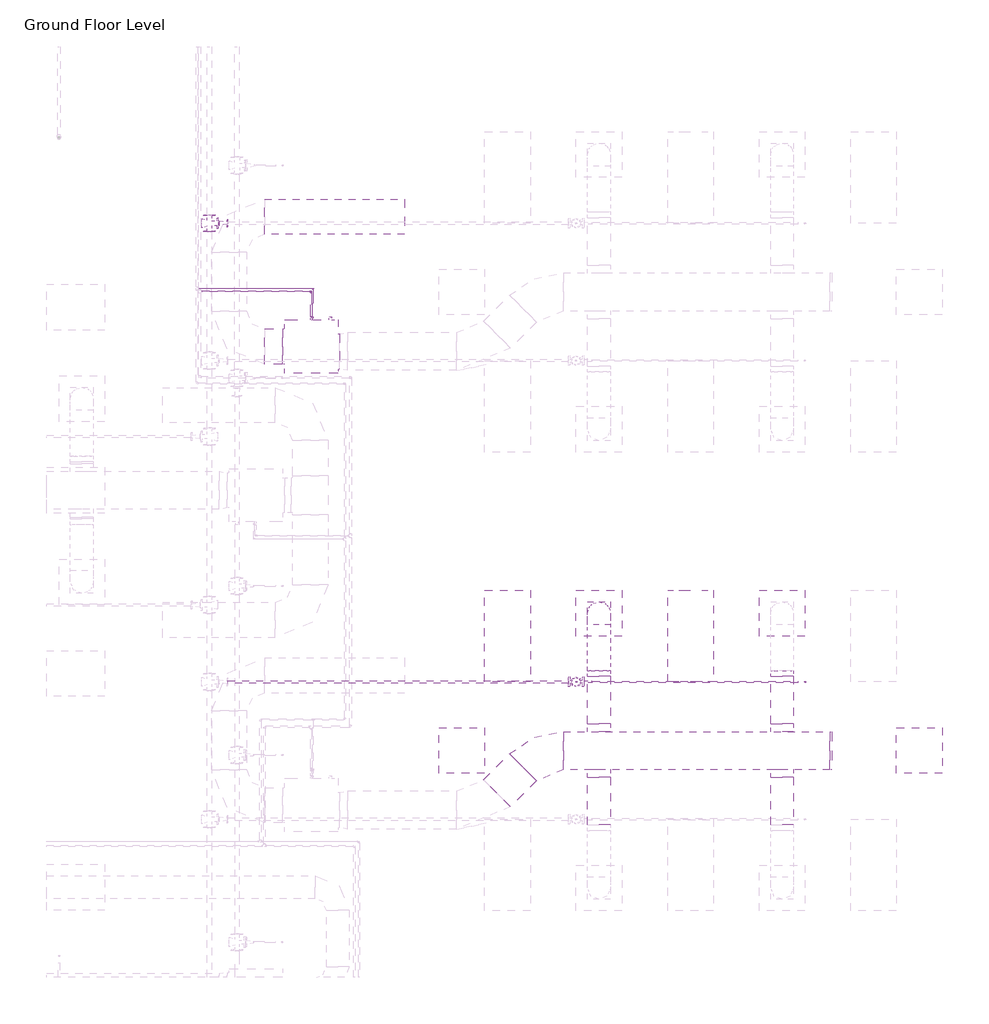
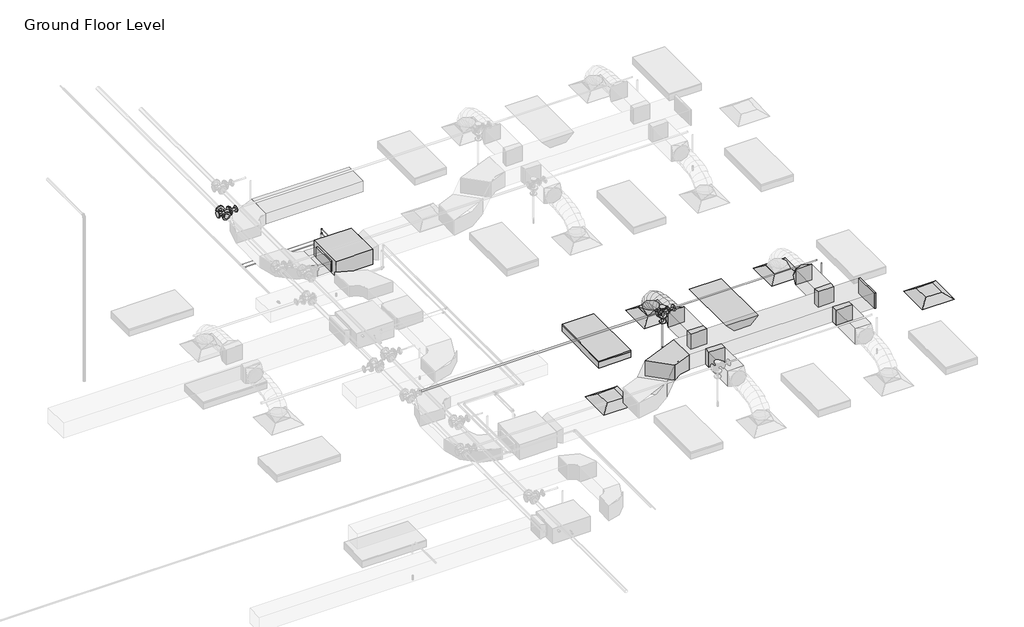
# One storey, part 63 of 74: 10 pipe segments, 9 duct fittings, 9 duct segments, 9 pipe fittings, 4 air terminals, 2 fire suppression terminals, 2 light fixtures, 1 proxy.
"""IFC4 building model written with IfcOpenShell, lengths in millimetres."""

from ifc_helpers import new_model, si_unit, point, frame, frame_2d, origin, place, context, project, spatial, polyline, circle_curve, ellipse_curve, trimmed, segment, composite_curve, outline, extrude, transform, mapped, element, save
from ifc_brep_helpers import plane_surface, cylinder_surface, advanced_brep
from components import m_return_diffuser_600_x_600_face_300_x_300_connection_ff221211, fcu_daikin_iu_bad131e0, m_rectangular_elbow_radius_1_5_w_acc56c25, m_rectangular_endcap_standard_72d4d00d, m_rectangular_takeoff_standard_cb0ccb98, m_rectangular_takeoff_standard_2be5eba1, m_rectangular_to_round_transition_angle_45_degree_641efff0, m_sprinkler_dry_pendent_hosted_15_mm_dry_pendent_9bda8e11, m_emergency_recessed_lighting_fixture_600x1200_277_5b10b25d, m_troffer_light_parabolic_rectangular1_0600x1200mm_4_lamp_86473d4a, m_elbow_generic_standard_a088f956, m_elbow_generic_standard_2a704253, m_reducer_flanged_cs_class_150_standard_ccf252ad, m_reducer_flanged_cs_class_150_standard_a7631c35, m_tee_round_base_flanged_cs_class_150_standard_dd767e04, m_tee_round_base_flanged_cs_class_150_standard_7e5987a1

model = new_model("IFC4")

# Units and contexts
model_context = context("Model", 3, world=origin())
ifc_project = project(units=[si_unit("LENGTHUNIT", "METRE", prefix="MILLI")], contexts=[model_context])

# Site, building, storey
site = spatial("IfcSite", under=ifc_project)
building = spatial("IfcBuilding", under=site)
storey = spatial("IfcBuildingStorey", under=building, Name="Ground Floor Level", Elevation=900.0)

# Air terminals
placement = place(None, origin())
m_return_diffuser_600_x_600_face_300_x_300_connection_shape = m_return_diffuser_600_x_600_face_300_x_300_connection_ff221211(model_context)
element("IfcAirTerminal", 1, ObjectType="M_Return Diffuser : 600 x 600 Face 300 x 300 Connection", at=placement, inside=storey, context=model_context, shape_type="MappedRepresentation", body=[
    mapped(m_return_diffuser_600_x_600_face_300_x_300_connection_shape, transform((8942.7672395, 725.2153534, 3650.0), x_axis=(1.0, 0.0, 0.0), y_axis=(0.0, 1.0, 0.0), z_axis=(0.0, 0.0, 1.0))),
])
element("IfcAirTerminal", 2, ObjectType="M_Return Diffuser : 600 x 600 Face 300 x 300 Connection", at=placement, inside=storey, context=model_context, shape_type="MappedRepresentation", body=[
    mapped(m_return_diffuser_600_x_600_face_300_x_300_connection_shape, transform((14942.7672395, 725.2153534, 3650.0), x_axis=(1.0, 0.0, 0.0), y_axis=(0.0, 1.0, 0.0), z_axis=(0.0, 0.0, 1.0))),
])
element("IfcAirTerminal", 3, ObjectType="M_Supply Diffuser : 600 x 600 Face 300 x 300 Connection", at=placement, inside=storey, context=model_context, shape_type="MappedRepresentation", body=[
    mapped(m_return_diffuser_600_x_600_face_300_x_300_connection_shape, transform((10742.7672395, 2525.2153534, 3650.0), x_axis=(1.0, 0.0, 0.0), y_axis=(0.0, 1.0, 0.0), z_axis=(0.0, 0.0, 1.0))),
])
element("IfcAirTerminal", 4, ObjectType="M_Supply Diffuser : 600 x 600 Face 300 x 300 Connection", at=placement, inside=storey, context=model_context, shape_type="MappedRepresentation", body=[
    mapped(m_return_diffuser_600_x_600_face_300_x_300_connection_shape, transform((13142.7672395, 2525.2153534, 3650.0), x_axis=(1.0, 0.0, 0.0), y_axis=(0.0, 1.0, 0.0), z_axis=(0.0, 0.0, 1.0))),
])

# Proxy
fcu_daikin_iu_shape = fcu_daikin_iu_bad131e0(model_context)
element("IfcBuildingElementProxy", 5, Name="FCU-DAIKIN IU : 4.5kW, 230V/50Hz/1Ph", ObjectType="FCU-DAIKIN IU : 4.5kW, 230V/50Hz/1Ph", at=placement, inside=storey, context=model_context, shape_type="MappedRepresentation", body=[
    mapped(fcu_daikin_iu_shape, transform((6968.8139492, 6019.6779527, 3934.0932729), x_axis=(0.0, 1.0, 0.0), y_axis=(-1.0, 0.0, 0.0), z_axis=(0.0, 0.0, 1.0))),
])

# Duct fittings
m_rectangular_elbow_radius_1_5_w_shape = m_rectangular_elbow_radius_1_5_w_acc56c25(model_context)
element("IfcDuctFitting", 6, ObjectType="M_Rectangular Elbow - Radius : 1.5 W", at=placement, inside=storey, context=model_context, shape_type="MappedRepresentation", body=[
    mapped(m_rectangular_elbow_radius_1_5_w_shape, transform((9966.7301365, 725.2153534, 4100.0), x_axis=(-1.0, 0.0, 0.0), y_axis=(0.0, -0.9999999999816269, 6.061864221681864e-06), z_axis=(0.0, 6.061864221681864e-06, 0.9999999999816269))),
])
m_rectangular_endcap_standard_shape = m_rectangular_endcap_standard_72d4d00d(model_context)
element("IfcDuctFitting", 7, ObjectType="M_Rectangular Endcap : Standard", at=placement, inside=storey, context=model_context, shape_type="MappedRepresentation", body=[
    mapped(m_rectangular_endcap_standard_shape, transform((13766.7301365, 725.2153534, 4100.0), x_axis=(1.0, 0.0, 0.0), y_axis=(0.0, 1.0, 0.0), z_axis=(0.0, 0.0, 1.0))),
])
m_rectangular_takeoff_standard_shape = m_rectangular_takeoff_standard_cb0ccb98(model_context)
element("IfcDuctFitting", 8, ObjectType="M_Rectangular Takeoff : Standard", at=placement, inside=storey, context=model_context, shape_type="MappedRepresentation", body=[
    mapped(m_rectangular_takeoff_standard_shape, transform((10742.7672395, 975.2153534, 4100.0), x_axis=(0.0, 1.0, 0.0), y_axis=(1.0, 0.0, 0.0), z_axis=(0.0, 0.0, -1.0))),
])
element("IfcDuctFitting", 9, ObjectType="M_Rectangular Takeoff : Standard", at=placement, inside=storey, context=model_context, shape_type="MappedRepresentation", body=[
    mapped(m_rectangular_takeoff_standard_shape, transform((13142.7672395, 975.2153534, 4100.0), x_axis=(0.0, 1.0, 0.0), y_axis=(1.0, 0.0, 0.0), z_axis=(0.0, 0.0, -1.0))),
])
m_rectangular_takeoff_standard_2_shape = m_rectangular_takeoff_standard_2be5eba1(model_context)
element("IfcDuctFitting", 10, ObjectType="M_Rectangular Takeoff : Standard", at=placement, inside=storey, context=model_context, shape_type="MappedRepresentation", body=[
    mapped(m_rectangular_takeoff_standard_2_shape, transform((10742.7672395, 475.2153534, 4100.0), x_axis=(0.0, -1.0, 0.0), y_axis=(-1.0, 0.0, 0.0), z_axis=(0.0, 0.0, -1.0))),
])
element("IfcDuctFitting", 11, ObjectType="M_Rectangular Takeoff : Standard", at=placement, inside=storey, context=model_context, shape_type="MappedRepresentation", body=[
    mapped(m_rectangular_takeoff_standard_2_shape, transform((13142.7672395, 475.2153534, 4100.0), x_axis=(0.0, -1.0, 0.0), y_axis=(-1.0, 0.0, 0.0), z_axis=(0.0, 0.0, -1.0))),
])
m_rectangular_to_round_transition_angle_45_degree_shape = m_rectangular_to_round_transition_angle_45_degree_641efff0(model_context)
element("IfcDuctFitting", 12, ObjectType="M_Rectangular to Round Transition - Angle : 45 Degree", at=placement, inside=storey, context=model_context, shape_type="MappedRepresentation", body=[
    mapped(m_rectangular_to_round_transition_angle_45_degree_shape, transform((10742.7672395, 2525.2153534, 3751.6), x_axis=(0.0, 0.0, 1.0), y_axis=(-1.0, 0.0, 0.0), z_axis=(0.0, -1.0, 0.0))),
])
element("IfcDuctFitting", 13, ObjectType="M_Rectangular to Round Transition - Angle : 45 Degree", at=placement, inside=storey, context=model_context, shape_type="MappedRepresentation", body=[
    mapped(m_rectangular_to_round_transition_angle_45_degree_shape, transform((10742.7672395, 1697.8794221, 4100.0), x_axis=(0.0, 1.0, 0.0), y_axis=(-1.0, 0.0, 0.0), z_axis=(0.0, 0.0, 1.0))),
])
element("IfcDuctFitting", 14, ObjectType="M_Rectangular to Round Transition - Angle : 45 Degree", at=placement, inside=storey, context=model_context, shape_type="MappedRepresentation", body=[
    mapped(m_rectangular_to_round_transition_angle_45_degree_shape, transform((13142.7672395, 1697.8794221, 4100.0), x_axis=(0.0, 1.0, 0.0), y_axis=(-1.0, 0.0, 0.0), z_axis=(0.0, 0.0, 1.0))),
])

# Duct segments
element("IfcDuctSegment", 15, ObjectType="Flex - Round", at=placement, inside=storey, context=model_context, shape_type="AdvancedBrep", body=[
    advanced_brep(
    [(10892.7672395, 2525.2153534, 3826.6), (10742.7672395, 2375.2153534, 3826.6), (10592.7672395, 2525.2153534, 3826.6), (10742.7672395, 2675.2153534, 3826.6), (10892.7672395, 2525.2153534, 3857.9377114), (10742.7672395, 2375.2153534, 3832.2944892), (10592.7672395, 2525.2153534, 3857.9377114), (10742.7672395, 2675.2153534, 3883.5809337), (10892.7672395, 2508.1994208, 3906.2505728), (10742.7672395, 2374.4614419, 3834.435049), (10592.7672395, 2508.1994208, 3906.2505728), (10742.7672395, 2641.9373998, 3978.0660967), (10892.7672395, 2461.0155405, 3968.7113131), (10742.7672395, 2356.8096412, 3857.8020236), (10592.7672395, 2461.0155405, 3968.7113131), (10742.7672395, 2565.2214397, 4079.6206026), (10892.7672395, 2389.4595883, 4016.0700639), (10742.7672395, 2320.5255327, 3881.8163788), (10592.7672395, 2389.4595883, 4016.0700639), (10742.7672395, 2458.3936439, 4150.3237489), (10892.7672395, 2299.3274403, 4050.4146682), (10742.7672395, 2255.7666771, 3906.4925606), (10592.7672395, 2299.3274403, 4050.4146682), (10742.7672395, 2342.8882035, 4194.3367758), (10892.7672395, 2196.4149725, 4073.8329691), (10742.7672395, 2169.8540485, 3926.0424542), (10592.7672395, 2196.4149725, 4073.8329691), (10742.7672395, 2222.9758965, 4221.6234841), (10892.7672395, 2086.5180607, 4088.4128097), (10742.7672395, 2071.3671584, 3939.1085462), (10592.7672395, 2086.5180607, 4088.4128097), (10742.7672395, 2101.6689631, 4237.7170733), (10892.7672395, 1975.4325811, 4096.242033), (10742.7672395, 1967.9272529, 3946.398915), (10592.7672395, 1975.4325811, 4096.242033), (10742.7672395, 1982.9379093, 4246.085151), (10892.7672395, 1868.9544096, 4099.4084821), (10742.7672395, 1866.2629165, 3949.4222102), (10592.7672395, 1868.9544096, 4099.4084821), (10742.7672395, 1871.6459027, 4249.394754), (10892.7672395, 1772.8794221, 4100.0), (10742.7672395, 1773.8029299, 4249.9971571), (10592.7672395, 1772.8794221, 4100.0), (10742.7672395, 1771.9559143, 3950.0028429)],
    [
        (0, 1, circle_curve(frame((10742.7672395, 2525.2153534, 3826.6), z_axis=(0.0, 0.0, -1.0), x_axis=(1.0, 0.0, 0.0)), 150.0)),
        (1, 2, circle_curve(frame((10742.7672395, 2525.2153534, 3826.6), z_axis=(0.0, 0.0, -1.0), x_axis=(1.0, 0.0, 0.0)), 150.0)),
        (2, 3, circle_curve(frame((10742.7672395, 2525.2153534, 3826.6), z_axis=(0.0, 0.0, -1.0), x_axis=(1.0, 0.0, 0.0)), 150.0)),
        (3, 0, circle_curve(frame((10742.7672395, 2525.2153534, 3826.6), z_axis=(0.0, 0.0, -1.0), x_axis=(1.0, 0.0, 0.0)), 150.0)),
        (0, 4),
        (4, 5, ellipse_curve(frame((10742.7672395, 2525.2153534, 3857.9377114), z_axis=(0.0, 0.16851014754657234, -0.9856999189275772), x_axis=(0.0, -0.9856999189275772, -0.1685101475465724)), 152.176131, 150.0)),
        (5, 1),
        (5, 6, ellipse_curve(frame((10742.7672395, 2525.2153534, 3857.9377114), z_axis=(0.0, 0.16851014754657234, -0.9856999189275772), x_axis=(0.0, -0.9856999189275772, -0.1685101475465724)), 152.176131, 150.0)),
        (6, 2),
        (6, 7, ellipse_curve(frame((10742.7672395, 2525.2153534, 3857.9377114), z_axis=(0.0, 0.16851014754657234, -0.9856999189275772), x_axis=(0.0, -0.9856999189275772, -0.1685101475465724)), 152.176131, 150.0)),
        (7, 3),
        (7, 4, ellipse_curve(frame((10742.7672395, 2525.2153534, 3857.9377114), z_axis=(0.0, 0.16851014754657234, -0.9856999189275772), x_axis=(0.0, -0.9856999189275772, -0.1685101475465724)), 152.176131, 150.0)),
        (4, 8),
        (8, 9, ellipse_curve(frame((10742.7672395, 2508.1994208, 3906.2505728), z_axis=(0.0, 0.47309225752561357, -0.8810128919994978), x_axis=(0.0, -0.8810128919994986, -0.47309225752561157)), 151.8002519, 150.0)),
        (9, 5),
        (9, 10, ellipse_curve(frame((10742.7672395, 2508.1994208, 3906.2505728), z_axis=(0.0, 0.47309225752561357, -0.8810128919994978), x_axis=(0.0, -0.8810128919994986, -0.47309225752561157)), 151.8002519, 150.0)),
        (10, 6),
        (10, 11, ellipse_curve(frame((10742.7672395, 2508.1994208, 3906.2505728), z_axis=(0.0, 0.47309225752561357, -0.8810128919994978), x_axis=(0.0, -0.8810128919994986, -0.47309225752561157)), 151.8002519, 150.0)),
        (11, 7),
        (11, 8, ellipse_curve(frame((10742.7672395, 2508.1994208, 3906.2505728), z_axis=(0.0, 0.47309225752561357, -0.8810128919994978), x_axis=(0.0, -0.8810128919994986, -0.47309225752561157)), 151.8002519, 150.0)),
        (8, 12),
        (12, 13, ellipse_curve(frame((10742.7672395, 2461.0155405, 3968.7113131), z_axis=(0.0, 0.7287877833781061, -0.6847396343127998), x_axis=(0.0, -0.6847396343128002, -0.7287877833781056)), 152.1832446, 150.0)),
        (13, 9),
        (13, 14, ellipse_curve(frame((10742.7672395, 2461.0155405, 3968.7113131), z_axis=(0.0, 0.7287877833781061, -0.6847396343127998), x_axis=(0.0, -0.6847396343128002, -0.7287877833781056)), 152.1832446, 150.0)),
        (14, 10),
        (14, 15, ellipse_curve(frame((10742.7672395, 2461.0155405, 3968.7113131), z_axis=(0.0, 0.7287877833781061, -0.6847396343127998), x_axis=(0.0, -0.6847396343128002, -0.7287877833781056)), 152.1832446, 150.0)),
        (15, 11),
        (15, 12, ellipse_curve(frame((10742.7672395, 2461.0155405, 3968.7113131), z_axis=(0.0, 0.7287877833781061, -0.6847396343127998), x_axis=(0.0, -0.6847396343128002, -0.7287877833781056)), 152.1832446, 150.0)),
        (12, 16),
        (16, 17, ellipse_curve(frame((10742.7672395, 2389.4595883, 4016.0700639), z_axis=(0.0, 0.8895859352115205, -0.45676784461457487), x_axis=(0.0, -0.4567678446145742, -0.8895859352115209)), 150.91705, 150.0)),
        (17, 13),
        (17, 18, ellipse_curve(frame((10742.7672395, 2389.4595883, 4016.0700639), z_axis=(0.0, 0.8895859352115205, -0.45676784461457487), x_axis=(0.0, -0.4567678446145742, -0.8895859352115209)), 150.91705, 150.0)),
        (18, 14),
        (18, 19, ellipse_curve(frame((10742.7672395, 2389.4595883, 4016.0700639), z_axis=(0.0, 0.8895859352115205, -0.45676784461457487), x_axis=(0.0, -0.4567678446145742, -0.8895859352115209)), 150.91705, 150.0)),
        (19, 15),
        (19, 16, ellipse_curve(frame((10742.7672395, 2389.4595883, 4016.0700639), z_axis=(0.0, 0.8895859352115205, -0.45676784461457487), x_axis=(0.0, -0.4567678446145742, -0.8895859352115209)), 150.91705, 150.0)),
        (16, 20),
        (20, 21, ellipse_curve(frame((10742.7672395, 2299.3274403, 4050.4146682), z_axis=(0.0, 0.9571203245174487, -0.2896906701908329), x_axis=(0.0, -0.28969067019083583, -0.9571203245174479)), 150.369921, 150.0)),
        (21, 17),
        (21, 22, ellipse_curve(frame((10742.7672395, 2299.3274403, 4050.4146682), z_axis=(0.0, 0.9571203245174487, -0.2896906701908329), x_axis=(0.0, -0.28969067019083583, -0.9571203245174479)), 150.369921, 150.0)),
        (22, 18),
        (22, 23, ellipse_curve(frame((10742.7672395, 2299.3274403, 4050.4146682), z_axis=(0.0, 0.9571203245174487, -0.2896906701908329), x_axis=(0.0, -0.28969067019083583, -0.9571203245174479)), 150.369921, 150.0)),
        (23, 19),
        (23, 20, ellipse_curve(frame((10742.7672395, 2299.3274403, 4050.4146682), z_axis=(0.0, 0.9571203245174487, -0.2896906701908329), x_axis=(0.0, -0.28969067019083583, -0.9571203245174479)), 150.369921, 150.0)),
        (20, 24),
        (24, 25, ellipse_curve(frame((10742.7672395, 2196.4149725, 4073.8329691), z_axis=(0.0, 0.9842313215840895, -0.1768861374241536), x_axis=(0.0, -0.1768861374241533, -0.9842313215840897)), 150.1583131, 150.0)),
        (25, 21),
        (25, 26, ellipse_curve(frame((10742.7672395, 2196.4149725, 4073.8329691), z_axis=(0.0, 0.9842313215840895, -0.1768861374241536), x_axis=(0.0, -0.1768861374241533, -0.9842313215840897)), 150.1583131, 150.0)),
        (26, 22),
        (26, 27, ellipse_curve(frame((10742.7672395, 2196.4149725, 4073.8329691), z_axis=(0.0, 0.9842313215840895, -0.1768861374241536), x_axis=(0.0, -0.1768861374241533, -0.9842313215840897)), 150.1583131, 150.0)),
        (27, 23),
        (27, 24, ellipse_curve(frame((10742.7672395, 2196.4149725, 4073.8329691), z_axis=(0.0, 0.9842313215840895, -0.1768861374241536), x_axis=(0.0, -0.1768861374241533, -0.9842313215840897)), 150.1583131, 150.0)),
        (24, 28),
        (28, 29, ellipse_curve(frame((10742.7672395, 2086.5180607, 4088.4128097), z_axis=(0.0, 0.9948906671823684, -0.10095821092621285), x_axis=(0.0, -0.10095821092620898, -0.9948906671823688)), 150.0710264, 150.0)),
        (29, 25),
        (29, 30, ellipse_curve(frame((10742.7672395, 2086.5180607, 4088.4128097), z_axis=(0.0, 0.9948906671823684, -0.10095821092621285), x_axis=(0.0, -0.10095821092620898, -0.9948906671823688)), 150.0710264, 150.0)),
        (30, 26),
        (30, 31, ellipse_curve(frame((10742.7672395, 2086.5180607, 4088.4128097), z_axis=(0.0, 0.9948906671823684, -0.10095821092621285), x_axis=(0.0, -0.10095821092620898, -0.9948906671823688)), 150.0710264, 150.0)),
        (31, 27),
        (31, 28, ellipse_curve(frame((10742.7672395, 2086.5180607, 4088.4128097), z_axis=(0.0, 0.9948906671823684, -0.10095821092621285), x_axis=(0.0, -0.10095821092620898, -0.9948906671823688)), 150.0710264, 150.0)),
        (28, 32),
        (32, 33, ellipse_curve(frame((10742.7672395, 1975.4325811, 4096.242033), z_axis=(0.0, 0.9987479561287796, -0.050025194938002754), x_axis=(0.0, -0.05002519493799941, -0.99874795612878)), 150.0309634, 150.0)),
        (33, 29),
        (33, 34, ellipse_curve(frame((10742.7672395, 1975.4325811, 4096.242033), z_axis=(0.0, 0.9987479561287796, -0.050025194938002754), x_axis=(0.0, -0.05002519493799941, -0.99874795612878)), 150.0309634, 150.0)),
        (34, 30),
        (34, 35, ellipse_curve(frame((10742.7672395, 1975.4325811, 4096.242033), z_axis=(0.0, 0.9987479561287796, -0.050025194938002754), x_axis=(0.0, -0.05002519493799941, -0.99874795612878)), 150.0309634, 150.0)),
        (35, 31),
        (35, 32, ellipse_curve(frame((10742.7672395, 1975.4325811, 4096.242033), z_axis=(0.0, 0.9987479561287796, -0.050025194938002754), x_axis=(0.0, -0.05002519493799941, -0.99874795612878)), 150.0309634, 150.0)),
        (32, 36),
        (36, 37, ellipse_curve(frame((10742.7672395, 1868.9544096, 4099.4084821), z_axis=(0.0, 0.9998390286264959, -0.01794204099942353), x_axis=(0.0, -0.017942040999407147, -0.9998390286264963)), 150.0104193, 150.0)),
        (37, 33),
        (37, 38, ellipse_curve(frame((10742.7672395, 1868.9544096, 4099.4084821), z_axis=(0.0, 0.9998390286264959, -0.01794204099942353), x_axis=(0.0, -0.017942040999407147, -0.9998390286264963)), 150.0104193, 150.0)),
        (38, 34),
        (38, 39, ellipse_curve(frame((10742.7672395, 1868.9544096, 4099.4084821), z_axis=(0.0, 0.9998390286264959, -0.01794204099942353), x_axis=(0.0, -0.017942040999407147, -0.9998390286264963)), 150.0104193, 150.0)),
        (39, 35),
        (39, 36, ellipse_curve(frame((10742.7672395, 1868.9544096, 4099.4084821), z_axis=(0.0, 0.9998390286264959, -0.01794204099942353), x_axis=(0.0, -0.017942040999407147, -0.9998390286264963)), 150.0104193, 150.0)),
        (40, 41, circle_curve(frame((10742.7672395, 1772.8794221, 4100.0), z_axis=(0.0, -0.9999810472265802, 0.006156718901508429), x_axis=(1.0, 0.0, 0.0)), 150.0)),
        (41, 42, circle_curve(frame((10742.7672395, 1772.8794221, 4100.0), z_axis=(0.0, -0.9999810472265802, 0.006156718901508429), x_axis=(1.0, 0.0, 0.0)), 150.0)),
        (42, 43, circle_curve(frame((10742.7672395, 1772.8794221, 4100.0), z_axis=(0.0, -0.9999810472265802, 0.006156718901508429), x_axis=(1.0, 0.0, 0.0)), 150.0)),
        (43, 40, circle_curve(frame((10742.7672395, 1772.8794221, 4100.0), z_axis=(0.0, -0.9999810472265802, 0.006156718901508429), x_axis=(1.0, 0.0, 0.0)), 150.0)),
        (36, 40),
        (43, 37),
        (42, 38),
        (41, 39),
    ],
    [
        plane_surface(frame((10742.7672395, 2375.2153534, 3826.6), z_axis=(0.0, 0.0, -1.0), x_axis=(1.0, 0.0, 0.0))),
        cylinder_surface(frame((10742.7672395, 2525.2153534, 3826.6), z_axis=(0.0, 0.0, -1.0), x_axis=(1.0, 0.0, 0.0)), 150.0),
        cylinder_surface(frame((10742.7672395, 2525.2153534, 3857.9377114), z_axis=(0.0, 0.3322008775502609, -0.9432086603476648), x_axis=(1.0, 0.0, 0.0)), 150.0),
        cylinder_surface(frame((10742.7672395, 2508.1994208, 3906.2505728), z_axis=(0.0, 0.6027625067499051, -0.7979206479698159), x_axis=(1.0, 0.0, 0.0)), 150.0),
        cylinder_surface(frame((10742.7672395, 2461.0155405, 3968.7113131), z_axis=(0.0, 0.8339024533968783, -0.5519118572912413), x_axis=(1.0, 0.0, 0.0)), 150.0),
        cylinder_surface(frame((10742.7672395, 2389.4595883, 4016.0700639), z_axis=(0.0, 0.9344582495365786, -0.35607271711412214), x_axis=(1.0, 0.0, 0.0)), 150.0),
        cylinder_surface(frame((10742.7672395, 2299.3274403, 4050.4146682), z_axis=(0.0, 0.9750732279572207, -0.22188330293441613), x_axis=(1.0, 0.0, 0.0)), 150.0),
        cylinder_surface(frame((10742.7672395, 2196.4149725, 4073.8329691), z_axis=(0.0, 0.9913140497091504, -0.13151598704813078), x_axis=(1.0, 0.0, 0.0)), 150.0),
        cylinder_surface(frame((10742.7672395, 2086.5180607, 4088.4128097), z_axis=(0.0, 0.9975255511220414, -0.07030487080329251), x_axis=(1.0, 0.0, 0.0)), 150.0),
        cylinder_surface(frame((10742.7672395, 1975.4325811, 4096.242033), z_axis=(0.0, 0.9995581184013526, -0.029724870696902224), x_axis=(1.0, 0.0, 0.0)), 150.0),
        plane_surface(frame((10742.7672395, 1771.9559143, 3950.0028429), z_axis=(0.0, -0.9999810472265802, 0.006156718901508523), x_axis=(1.0, 0.0, 0.0))),
        cylinder_surface(frame((10742.7672395, 1868.9544096, 4099.4084821), z_axis=(0.0, 0.9999810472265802, -0.006156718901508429), x_axis=(1.0, 0.0, 0.0)), 150.0),
    ],
    [
        (0, [[1, 2, 3, 4]]),
        (1, [[-1, 5, 6, 7]]),
        (1, [[-2, -7, 8, 9]]),
        (1, [[-3, -9, 10, 11]]),
        (1, [[-4, -11, 12, -5]]),
        (2, [[-6, 13, 14, 15]]),
        (2, [[-8, -15, 16, 17]]),
        (2, [[-10, -17, 18, 19]]),
        (2, [[-12, -19, 20, -13]]),
        (3, [[-14, 21, 22, 23]]),
        (3, [[-16, -23, 24, 25]]),
        (3, [[-18, -25, 26, 27]]),
        (3, [[-20, -27, 28, -21]]),
        (4, [[-22, 29, 30, 31]]),
        (4, [[-24, -31, 32, 33]]),
        (4, [[-26, -33, 34, 35]]),
        (4, [[-28, -35, 36, -29]]),
        (5, [[-30, 37, 38, 39]]),
        (5, [[-32, -39, 40, 41]]),
        (5, [[-34, -41, 42, 43]]),
        (5, [[-36, -43, 44, -37]]),
        (6, [[-38, 45, 46, 47]]),
        (6, [[-40, -47, 48, 49]]),
        (6, [[-42, -49, 50, 51]]),
        (6, [[-44, -51, 52, -45]]),
        (7, [[-46, 53, 54, 55]]),
        (7, [[-48, -55, 56, 57]]),
        (7, [[-50, -57, 58, 59]]),
        (7, [[-52, -59, 60, -53]]),
        (8, [[-54, 61, 62, 63]]),
        (8, [[-56, -63, 64, 65]]),
        (8, [[-58, -65, 66, 67]]),
        (8, [[-60, -67, 68, -61]]),
        (9, [[-62, 69, 70, 71]]),
        (9, [[-64, -71, 72, 73]]),
        (9, [[-66, -73, 74, 75]]),
        (9, [[-68, -75, 76, -69]]),
        (10, [[77, 78, 79, 80]]),
        (11, [[-70, 81, -80, 82]]),
        (11, [[-72, -82, -79, 83]]),
        (11, [[-74, -83, -78, 84]]),
        (11, [[-76, -84, -77, -81]]),
    ],
),
])
element("IfcDuctSegment", 16, ObjectType="Radius Elbows / Taps", at=placement, inside=storey, context=model_context, shape_type="SweptSolid", body=[
    extrude(outline(polyline([(6593.4139492, 6250.6154527), (6593.4139492, 5788.7404527), (6355.2889492, 5788.7404527), (6355.2889492, 6250.6154527), (6593.4139492, 6250.6154527)])), frame((0.0, 0.0, 3968.1432729), z_axis=(0.0, 0.0, 1.0), x_axis=(1.0, 0.0, 0.0)), (0.0, 0.0, 1.0), 214.3),
])
element("IfcDuctSegment", 17, ObjectType="Radius Elbows / Taps", at=placement, inside=storey, context=model_context, shape_type="SweptSolid", body=[
    extrude(outline(polyline([(6355.2889492, 7488.7408949), (6355.2889492, 7950.6158949), (8193.4139492, 7950.6158949), (8193.4139492, 7488.7408949), (6355.2889492, 7488.7408949)])), frame((0.0, 0.0, 3968.1432729), z_axis=(0.0, 0.0, 1.0), x_axis=(1.0, 0.0, 0.0)), (0.0, 0.0, 1.0), 214.3),
])
element("IfcDuctSegment", 18, ObjectType="Radius Elbows / Taps", at=placement, inside=storey, context=model_context, shape_type="SweptSolid", body=[
    extrude(outline(polyline([(9584.1393452, -10.9288285), (9230.5859546, 342.6245621), (9570.2835271, 682.3221346), (9923.8369177, 328.768744), (9584.1393452, -10.9288285)])), frame((0.0, 0.0, 3950.0033908), z_axis=(0.0, 0.0, 1.0), x_axis=(1.0, 0.0, 0.0)), (0.0, 0.0, 1.0), 300.0),
])
element("IfcDuctSegment", 19, ObjectType="Radius Elbows / Taps", at=placement, inside=storey, context=model_context, shape_type="SweptSolid", body=[
    extrude(outline(polyline([(10277.3903083, 475.2153534), (10277.3903083, 975.2153534), (13766.7301365, 975.2153534), (13766.7301365, 475.2153534), (10277.3903083, 475.2153534)])), frame((0.0, 0.0, 3950.0), z_axis=(0.0, 0.0, 1.0), x_axis=(1.0, 0.0, 0.0)), (0.0, 0.0, 1.0), 300.0),
])
element("IfcDuctSegment", 20, ObjectType="Radius Elbows / Taps", at=placement, inside=storey, context=model_context, shape_type="SweptSolid", body=[
    extrude(outline(polyline([(10892.7672395, 1076.8153534), (10592.7672395, 1076.8153534), (10592.7672395, 1697.8794221), (10892.7672395, 1697.8794221), (10892.7672395, 1076.8153534)])), frame((0.0, 0.0, 3950.0), z_axis=(0.0, 0.0, 1.0), x_axis=(1.0, 0.0, 0.0)), (0.0, 0.0, 1.0), 300.0),
])
element("IfcDuctSegment", 21, ObjectType="Radius Elbows / Taps", at=placement, inside=storey, context=model_context, shape_type="SweptSolid", body=[
    extrude(outline(polyline([(13292.7672395, 1076.8153534), (12992.7672395, 1076.8153534), (12992.7672395, 1697.8794221), (13292.7672395, 1697.8794221), (13292.7672395, 1076.8153534)])), frame((0.0, 0.0, 3950.0), z_axis=(0.0, 0.0, 1.0), x_axis=(1.0, 0.0, 0.0)), (0.0, 0.0, 1.0), 300.0),
])
element("IfcDuctSegment", 22, ObjectType="Radius Elbows / Taps", at=placement, inside=storey, context=model_context, shape_type="SweptSolid", body=[
    extrude(outline(polyline([(10592.7672395, 373.6153534), (10892.7672395, 373.6153534), (10892.7672395, -247.4487153), (10592.7672395, -247.4487153), (10592.7672395, 373.6153534)])), frame((0.0, 0.0, 3950.0), z_axis=(0.0, 0.0, 1.0), x_axis=(1.0, 0.0, 0.0)), (0.0, 0.0, 1.0), 300.0),
])
element("IfcDuctSegment", 23, ObjectType="Radius Elbows / Taps", at=placement, inside=storey, context=model_context, shape_type="SweptSolid", body=[
    extrude(outline(polyline([(12992.7672395, 373.6153534), (13292.7672395, 373.6153534), (13292.7672395, -247.4487153), (12992.7672395, -247.4487153), (12992.7672395, 373.6153534)])), frame((0.0, 0.0, 3950.0), z_axis=(0.0, 0.0, 1.0), x_axis=(1.0, 0.0, 0.0)), (0.0, 0.0, 1.0), 300.0),
])

# Fire suppression terminals
m_sprinkler_dry_pendent_hosted_15_mm_dry_pendent_shape = m_sprinkler_dry_pendent_hosted_15_mm_dry_pendent_9bda8e11(model_context)
element("IfcFireSuppressionTerminal", 24, ObjectType="M_Sprinkler - Dry - Pendent - Hosted : 15 mm Dry Pendent", at=placement, inside=storey, context=model_context, shape_type="MappedRepresentation", body=[
    mapped(m_sprinkler_dry_pendent_hosted_15_mm_dry_pendent_shape, transform((10442.7672395, 1625.2153534, 3650.0), x_axis=(1.0, 0.0, 0.0), y_axis=(0.0, -1.0, 0.0), z_axis=(0.0, 0.0, -1.0))),
])
element("IfcFireSuppressionTerminal", 25, ObjectType="M_Sprinkler - Dry - Pendent - Hosted : 15 mm Dry Pendent", at=placement, inside=storey, context=model_context, shape_type="MappedRepresentation", body=[
    mapped(m_sprinkler_dry_pendent_hosted_15_mm_dry_pendent_shape, transform((13442.7672395, 1625.2153534, 3650.0), x_axis=(1.0, 0.0, 0.0), y_axis=(0.0, -1.0, 0.0), z_axis=(0.0, 0.0, -1.0))),
])

# Light fixtures
m_emergency_recessed_lighting_fixture_600x1200_277_shape = m_emergency_recessed_lighting_fixture_600x1200_277_5b10b25d(model_context)
element("IfcLightFixture", 26, ObjectType="M_Emergency Recessed Lighting Fixture : 600x1200 - 277", at=placement, inside=storey, context=model_context, shape_type="MappedRepresentation", body=[
    mapped(m_emergency_recessed_lighting_fixture_600x1200_277_shape, transform((11642.7672395, 1625.2153534, 3650.0), x_axis=(0.0, 1.0, 0.0), y_axis=(-1.0, 0.0, 0.0), z_axis=(0.0, 0.0, 1.0))),
])
m_troffer_light_parabolic_rectangular1_0600x1200mm_4_lamp_shape = m_troffer_light_parabolic_rectangular1_0600x1200mm_4_lamp_86473d4a(model_context)
element("IfcLightFixture", 27, ObjectType="M_Troffer Light - Parabolic Rectangular1 : 0600x1200mm(4 Lamp) - 277V 2", at=placement, inside=storey, context=model_context, shape_type="MappedRepresentation", body=[
    mapped(m_troffer_light_parabolic_rectangular1_0600x1200mm_4_lamp_shape, transform((9483.3013074, 2243.918855, 3650.0), x_axis=(0.0, 1.0, 0.0), y_axis=(-1.0, 0.0, 0.0), z_axis=(0.0, 0.0, 1.0))),
])

# Pipe fittings
m_elbow_generic_standard_shape = m_elbow_generic_standard_a088f956(model_context)
element("IfcPipeFitting", 28, ObjectType="M_Elbow - Generic : Standard", at=placement, inside=storey, context=model_context, shape_type="MappedRepresentation", body=[
    mapped(m_elbow_generic_standard_shape, transform((6968.8139492, 6741.4098545, 4034.0932729), x_axis=(0.0, 1.0, 0.0), y_axis=(0.0, 0.0, -1.0), z_axis=(-1.0, 0.0, 0.0))),
])
element("IfcPipeFitting", 29, ObjectType="M_Elbow - Generic : Standard", at=placement, inside=storey, context=model_context, shape_type="MappedRepresentation", body=[
    mapped(m_elbow_generic_standard_shape, transform((6968.8139492, 6741.4098545, 3851.8370709), x_axis=(0.0, 0.0, -1.0), y_axis=(-1.0, 0.0, 0.0), z_axis=(0.0, 1.0, 0.0))),
])
m_elbow_generic_standard_2_shape = m_elbow_generic_standard_2a704253(model_context)
element("IfcPipeFitting", 30, ObjectType="M_Elbow - Generic : Standard", at=placement, inside=storey, context=model_context, shape_type="MappedRepresentation", body=[
    mapped(m_elbow_generic_standard_2_shape, transform((6993.8139492, 6781.5253374, 4084.8932729), x_axis=(0.0, 1.0, 0.0), y_axis=(0.0, 0.0, -1.0), z_axis=(-1.0, 0.0, 0.0))),
])
element("IfcPipeFitting", 31, ObjectType="M_Elbow - Generic : Standard", at=placement, inside=storey, context=model_context, shape_type="MappedRepresentation", body=[
    mapped(m_elbow_generic_standard_2_shape, transform((6993.8139492, 6781.5253374, 3894.9), x_axis=(0.0, 0.0, -1.0), y_axis=(-1.0, 0.0, 0.0), z_axis=(0.0, 1.0, 0.0))),
])
m_reducer_flanged_cs_class_150_standard_shape = m_reducer_flanged_cs_class_150_standard_ccf252ad(model_context)
element("IfcPipeFitting", 32, ObjectType="M_Reducer - Flanged - CS - Class 150 : Standard", at=placement, inside=storey, context=model_context, shape_type="MappedRepresentation", body=[
    mapped(m_reducer_flanged_cs_class_150_standard_shape, transform((10543.4758332, 1625.2153534, 4360.0), x_axis=(1.0, 0.0, 0.0), y_axis=(0.0, 0.0, 1.0), z_axis=(0.0, -1.0, 0.0))),
])
element("IfcPipeFitting", 33, ObjectType="M_Reducer - Flanged - CS - Class 150 : Standard", at=placement, inside=storey, context=model_context, shape_type="MappedRepresentation", body=[
    mapped(m_reducer_flanged_cs_class_150_standard_shape, transform((10442.7672395, 1625.2153534, 4259.2914062), x_axis=(0.0, 0.0, -1.0), y_axis=(-1.0, 0.0, 0.0), z_axis=(0.0, 1.0, 0.0))),
])
m_reducer_flanged_cs_class_150_standard_2_shape = m_reducer_flanged_cs_class_150_standard_a7631c35(model_context)
element("IfcPipeFitting", 34, ObjectType="M_Reducer - Flanged - CS - Class 150 : Standard", at=placement, inside=storey, context=model_context, shape_type="MappedRepresentation", body=[
    mapped(m_reducer_flanged_cs_class_150_standard_2_shape, transform((5749.869498, 7635.2153534, 4360.0), x_axis=(1.0, 0.0, 0.0), y_axis=(0.0, 0.0, 1.0), z_axis=(0.0, -1.0, 0.0))),
])
m_tee_round_base_flanged_cs_class_150_standard_shape = m_tee_round_base_flanged_cs_class_150_standard_dd767e04(model_context)
element("IfcPipeFitting", 35, ObjectType="M_Tee Round Base - Flanged - CS - Class 150 : Standard", at=placement, inside=storey, context=model_context, shape_type="MappedRepresentation", body=[
    mapped(m_tee_round_base_flanged_cs_class_150_standard_shape, transform((5635.869498, 7635.2153534, 4360.0), x_axis=(0.0, 1.0, 0.0), y_axis=(-1.0, 0.0, 0.0), z_axis=(0.0, 0.0, 1.0))),
])
m_tee_round_base_flanged_cs_class_150_standard_2_shape = m_tee_round_base_flanged_cs_class_150_standard_7e5987a1(model_context)
element("IfcPipeFitting", 36, ObjectType="M_Tee Round Base - Flanged - CS - Class 150 : Standard", at=placement, inside=storey, context=model_context, shape_type="MappedRepresentation", body=[
    mapped(m_tee_round_base_flanged_cs_class_150_standard_2_shape, transform((10442.7672395, 1625.2153534, 4360.0), x_axis=(1.0, 0.0, 0.0), y_axis=(0.0, 0.0, 1.0), z_axis=(0.0, -1.0, 0.0))),
])

# Pipe segments
element("IfcPipeSegment", 37, ObjectType="Copper", at=placement, inside=storey, context=model_context, shape_type="SweptSolid", body=[
    extrude(outline(composite_curve([segment(trimmed(circle_curve(frame_2d((6781.5253374, 3894.9)), 3.35), [point((6784.8753374, 3894.9))], [point((6781.5253374, 3891.55))], False, "CARTESIAN"), True, "CONTINUOUS"), segment(trimmed(circle_curve(frame_2d((6781.5253374, 3894.9)), 3.35), [point((6781.5253374, 3891.55))], [point((6778.1753374, 3894.9))], False, "CARTESIAN"), True, "CONTINUOUS"), segment(trimmed(circle_curve(frame_2d((6781.5253374, 3894.9)), 3.35), [point((6778.1753374, 3894.9))], [point((6781.5253374, 3898.25))], False, "CARTESIAN"), True, "CONTINUOUS"), segment(trimmed(circle_curve(frame_2d((6781.5253374, 3894.9)), 3.35), [point((6781.5253374, 3898.25))], [point((6784.8753374, 3894.9))], False, "CARTESIAN"), True, "CONTINUOUS")], self_intersect=False)), frame((5499.1932053, 0.0, 0.0), z_axis=(1.0, 0.0, 0.0), x_axis=(0.0, 1.0, 0.0)), (0.0, 0.0, 1.0), 1483.483244),
])
element("IfcPipeSegment", 38, ObjectType="Copper", at=placement, inside=storey, context=model_context, shape_type="SweptSolid", body=[
    extrude(outline(composite_curve([segment(trimmed(circle_curve(frame_2d((6741.4098545, 3851.8370709)), 6.5), [point((6747.9098545, 3851.8370709))], [point((6741.4098545, 3845.3370709))], False, "CARTESIAN"), True, "CONTINUOUS"), segment(trimmed(circle_curve(frame_2d((6741.4098545, 3851.8370709)), 6.5), [point((6741.4098545, 3845.3370709))], [point((6734.9098545, 3851.8370709))], False, "CARTESIAN"), True, "CONTINUOUS"), segment(trimmed(circle_curve(frame_2d((6741.4098545, 3851.8370709)), 6.5), [point((6734.9098545, 3851.8370709))], [point((6741.4098545, 3858.3370709))], False, "CARTESIAN"), True, "CONTINUOUS"), segment(trimmed(circle_curve(frame_2d((6741.4098545, 3851.8370709)), 6.5), [point((6741.4098545, 3858.3370709))], [point((6747.9098545, 3851.8370709))], False, "CARTESIAN"), True, "CONTINUOUS")], self_intersect=False)), frame((5536.8172395, 0.0, 0.0), z_axis=(1.0, 0.0, 0.0), x_axis=(0.0, 1.0, 0.0)), (0.0, 0.0, 1.0), 1417.7092098),
])
element("IfcPipeSegment", 39, ObjectType="Copper", at=placement, inside=storey, context=model_context, shape_type="SweptSolid", body=[
    extrude(outline(composite_curve([segment(trimmed(circle_curve(frame_2d((4034.0932729, 6968.8139492)), 6.5), [point((4034.0932729, 6975.3139492))], [point((4040.5932729, 6968.8139492))], False, "CARTESIAN"), True, "CONTINUOUS"), segment(trimmed(circle_curve(frame_2d((4034.0932729, 6968.8139492)), 6.5), [point((4040.5932729, 6968.8139492))], [point((4034.0932729, 6962.3139492))], False, "CARTESIAN"), True, "CONTINUOUS"), segment(trimmed(circle_curve(frame_2d((4034.0932729, 6968.8139492)), 6.5), [point((4034.0932729, 6962.3139492))], [point((4027.5932729, 6968.8139492))], False, "CARTESIAN"), True, "CONTINUOUS"), segment(trimmed(circle_curve(frame_2d((4034.0932729, 6968.8139492)), 6.5), [point((4027.5932729, 6968.8139492))], [point((4034.0932729, 6975.3139492))], False, "CARTESIAN"), True, "CONTINUOUS")], self_intersect=False)), frame((0.0, 6407.7779526, 0.0), z_axis=(0.0, 1.0, 0.0), x_axis=(0.0, 0.0, 1.0)), (0.0, 0.0, 1.0), 319.3444019),
])
element("IfcPipeSegment", 40, ObjectType="Copper", at=placement, inside=storey, context=model_context, shape_type="SweptSolid", body=[
    extrude(outline(composite_curve([segment(trimmed(circle_curve(frame_2d((4084.8932729, 6993.8139492)), 3.35), [point((4084.8932729, 6997.1639492))], [point((4088.2432729, 6993.8139492))], False, "CARTESIAN"), True, "CONTINUOUS"), segment(trimmed(circle_curve(frame_2d((4084.8932729, 6993.8139492)), 3.35), [point((4088.2432729, 6993.8139492))], [point((4084.8932729, 6990.4639492))], False, "CARTESIAN"), True, "CONTINUOUS"), segment(trimmed(circle_curve(frame_2d((4084.8932729, 6993.8139492)), 3.35), [point((4084.8932729, 6990.4639492))], [point((4081.5432729, 6993.8139492))], False, "CARTESIAN"), True, "CONTINUOUS"), segment(trimmed(circle_curve(frame_2d((4084.8932729, 6993.8139492)), 3.35), [point((4081.5432729, 6993.8139492))], [point((4084.8932729, 6997.1639492))], False, "CARTESIAN"), True, "CONTINUOUS")], self_intersect=False)), frame((0.0, 6407.7779526, 0.0), z_axis=(0.0, 1.0, 0.0), x_axis=(0.0, 0.0, 1.0)), (0.0, 0.0, 1.0), 362.6098848),
])
element("IfcPipeSegment", 41, ObjectType="Copper", at=placement, inside=storey, context=model_context, shape_type="SweptSolid", body=[
    extrude(outline(composite_curve([segment(trimmed(circle_curve(frame_2d((6968.8139492, 6741.4098545)), 6.5), [point((6975.3139492, 6741.4098545))], [point((6968.8139492, 6734.9098545))], False, "CARTESIAN"), True, "CONTINUOUS"), segment(trimmed(circle_curve(frame_2d((6968.8139492, 6741.4098545)), 6.5), [point((6968.8139492, 6734.9098545))], [point((6962.3139492, 6741.4098545))], False, "CARTESIAN"), True, "CONTINUOUS"), segment(trimmed(circle_curve(frame_2d((6968.8139492, 6741.4098545)), 6.5), [point((6962.3139492, 6741.4098545))], [point((6968.8139492, 6747.9098545))], False, "CARTESIAN"), True, "CONTINUOUS"), segment(trimmed(circle_curve(frame_2d((6968.8139492, 6741.4098545)), 6.5), [point((6968.8139492, 6747.9098545))], [point((6975.3139492, 6741.4098545))], False, "CARTESIAN"), True, "CONTINUOUS")], self_intersect=False)), frame((0.0, 0.0, 3866.1245709), z_axis=(0.0, 0.0, 1.0), x_axis=(1.0, 0.0, 0.0)), (0.0, 0.0, 1.0), 153.6812021),
])
element("IfcPipeSegment", 42, ObjectType="Copper", at=placement, inside=storey, context=model_context, shape_type="SweptSolid", body=[
    extrude(outline(composite_curve([segment(trimmed(circle_curve(frame_2d((6993.8139492, 6781.5253374)), 3.35), [point((6997.1639492, 6781.5253374))], [point((6993.8139492, 6778.1753374))], False, "CARTESIAN"), True, "CONTINUOUS"), segment(trimmed(circle_curve(frame_2d((6993.8139492, 6781.5253374)), 3.35), [point((6993.8139492, 6778.1753374))], [point((6990.4639492, 6781.5253374))], False, "CARTESIAN"), True, "CONTINUOUS"), segment(trimmed(circle_curve(frame_2d((6993.8139492, 6781.5253374)), 3.35), [point((6990.4639492, 6781.5253374))], [point((6993.8139492, 6784.8753374))], False, "CARTESIAN"), True, "CONTINUOUS"), segment(trimmed(circle_curve(frame_2d((6993.8139492, 6781.5253374)), 3.35), [point((6993.8139492, 6784.8753374))], [point((6997.1639492, 6781.5253374))], False, "CARTESIAN"), True, "CONTINUOUS")], self_intersect=False)), frame((0.0, 0.0, 3906.0375), z_axis=(0.0, 0.0, 1.0), x_axis=(1.0, 0.0, 0.0)), (0.0, 0.0, 1.0), 167.7182729),
])
element("IfcPipeSegment", 43, ObjectType="Steel flanged", at=placement, inside=storey, context=model_context, shape_type="SweptSolid", body=[
    extrude(outline(composite_curve([segment(trimmed(circle_curve(frame_2d((13442.7672395, 1625.2153534)), 10.668), [point((13432.0992395, 1625.2153534))], [point((13442.7672395, 1635.8833534))], False, "CARTESIAN"), True, "CONTINUOUS"), segment(trimmed(circle_curve(frame_2d((13442.7672395, 1625.2153534)), 10.668), [point((13442.7672395, 1635.8833534))], [point((13453.4352395, 1625.2153534))], False, "CARTESIAN"), True, "CONTINUOUS"), segment(trimmed(circle_curve(frame_2d((13442.7672395, 1625.2153534)), 10.668), [point((13453.4352395, 1625.2153534))], [point((13442.7672395, 1614.5473534))], False, "CARTESIAN"), True, "CONTINUOUS"), segment(trimmed(circle_curve(frame_2d((13442.7672395, 1625.2153534)), 10.668), [point((13442.7672395, 1614.5473534))], [point((13432.0992395, 1625.2153534))], False, "CARTESIAN"), True, "CONTINUOUS")], self_intersect=False)), frame((0.0, 0.0, 3650.0), z_axis=(0.0, 0.0, 1.0), x_axis=(1.0, 0.0, 0.0)), (0.0, 0.0, 1.0), 616.9914062),
])
element("IfcPipeSegment", 44, ObjectType="Steel flanged", at=placement, inside=storey, context=model_context, shape_type="SweptSolid", body=[
    extrude(outline(composite_curve([segment(trimmed(circle_curve(frame_2d((10442.7672395, 1625.2153534)), 10.668), [point((10432.0992395, 1625.2153534))], [point((10442.7672395, 1635.8833534))], False, "CARTESIAN"), True, "CONTINUOUS"), segment(trimmed(circle_curve(frame_2d((10442.7672395, 1625.2153534)), 10.668), [point((10442.7672395, 1635.8833534))], [point((10453.4352395, 1625.2153534))], False, "CARTESIAN"), True, "CONTINUOUS"), segment(trimmed(circle_curve(frame_2d((10442.7672395, 1625.2153534)), 10.668), [point((10453.4352395, 1625.2153534))], [point((10442.7672395, 1614.5473534))], False, "CARTESIAN"), True, "CONTINUOUS"), segment(trimmed(circle_curve(frame_2d((10442.7672395, 1625.2153534)), 10.668), [point((10442.7672395, 1614.5473534))], [point((10432.0992395, 1625.2153534))], False, "CARTESIAN"), True, "CONTINUOUS")], self_intersect=False)), frame((0.0, 0.0, 3650.0), z_axis=(0.0, 0.0, 1.0), x_axis=(1.0, 0.0, 0.0)), (0.0, 0.0, 1.0), 495.2914062),
])
element("IfcPipeSegment", 45, ObjectType="Steel flanged", at=placement, inside=storey, context=model_context, shape_type="SweptSolid", body=[
    extrude(outline(composite_curve([segment(trimmed(circle_curve(frame_2d((1625.2153534, 4360.0)), 16.7005), [point((1641.9158534, 4360.0))], [point((1625.2153534, 4343.2995))], False, "CARTESIAN"), True, "CONTINUOUS"), segment(trimmed(circle_curve(frame_2d((1625.2153534, 4360.0)), 16.7005), [point((1625.2153534, 4343.2995))], [point((1608.5148534, 4360.0))], False, "CARTESIAN"), True, "CONTINUOUS"), segment(trimmed(circle_curve(frame_2d((1625.2153534, 4360.0)), 16.7005), [point((1608.5148534, 4360.0))], [point((1625.2153534, 4376.7005))], False, "CARTESIAN"), True, "CONTINUOUS"), segment(trimmed(circle_curve(frame_2d((1625.2153534, 4360.0)), 16.7005), [point((1625.2153534, 4376.7005))], [point((1641.9158534, 4360.0))], False, "CARTESIAN"), True, "CONTINUOUS")], self_intersect=False)), frame((5876.869498, 0.0, 0.0), z_axis=(1.0, 0.0, 0.0), x_axis=(0.0, 1.0, 0.0)), (0.0, 0.0, 1.0), 4465.1891477),
])
element("IfcPipeSegment", 46, ObjectType="Steel flanged", at=placement, inside=storey, context=model_context, shape_type="SweptSolid", body=[
    extrude(outline(composite_curve([segment(trimmed(circle_curve(frame_2d((1625.2153534, 4360.0)), 10.668), [point((1635.8833534, 4360.0))], [point((1625.2153534, 4349.332))], False, "CARTESIAN"), True, "CONTINUOUS"), segment(trimmed(circle_curve(frame_2d((1625.2153534, 4360.0)), 10.668), [point((1625.2153534, 4349.332))], [point((1614.5473534, 4360.0))], False, "CARTESIAN"), True, "CONTINUOUS"), segment(trimmed(circle_curve(frame_2d((1625.2153534, 4360.0)), 10.668), [point((1614.5473534, 4360.0))], [point((1625.2153534, 4370.668))], False, "CARTESIAN"), True, "CONTINUOUS"), segment(trimmed(circle_curve(frame_2d((1625.2153534, 4360.0)), 10.668), [point((1625.2153534, 4370.668))], [point((1635.8833534, 4360.0))], False, "CARTESIAN"), True, "CONTINUOUS")], self_intersect=False)), frame((10657.4758332, 0.0, 0.0), z_axis=(1.0, 0.0, 0.0), x_axis=(0.0, 1.0, 0.0)), (0.0, 0.0, 1.0), 2692.2828125),
])

save(model, "model.ifc")
